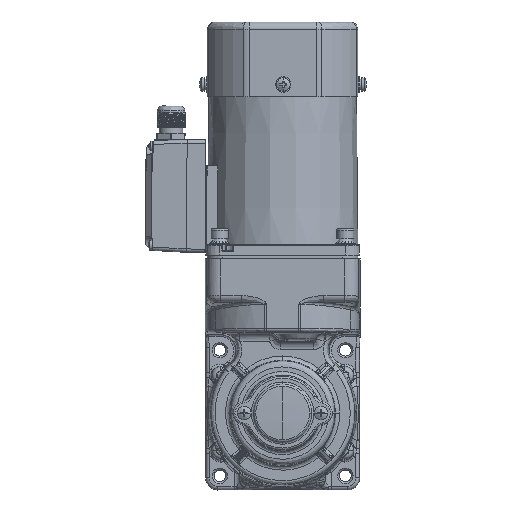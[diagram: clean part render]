
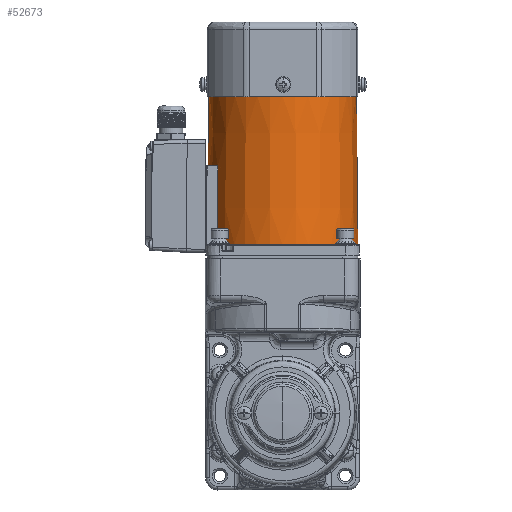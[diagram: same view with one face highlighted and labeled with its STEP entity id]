
A CAD part, left-side view. The second image highlights one B-rep face of the part: STEP entity #52673.
In plain terms, the highlighted conical face has half-angle 0.5 degrees and reference radius 44 mm.
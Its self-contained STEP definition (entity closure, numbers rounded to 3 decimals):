
#1883 = CIRCLE ( 'NONE', #111071, 43.594 ) ;
#4264 = ORIENTED_EDGE ( 'NONE', *, *, #41773, .T. ) ;
#5992 = CARTESIAN_POINT ( 'NONE',  ( 25.716, -18.727, 171.081 ) ) ;
#7411 = CARTESIAN_POINT ( 'NONE',  ( 31.793, 2.774, 217.5 ) ) ;
#7889 = CARTESIAN_POINT ( 'NONE',  ( 25.78, -18.615, 171.012 ) ) ;
#8622 = CARTESIAN_POINT ( 'NONE',  ( -12.207, 2.774, 217.5 ) ) ;
#10200 = FACE_OUTER_BOUND ( 'NONE', #118010, .T. ) ;
#17102 = LINE ( 'NONE', #7411, #109047 ) ;
#17750 = EDGE_CURVE ( 'NONE', #52035, #58328, #17102, .T. ) ;
#18147 = CARTESIAN_POINT ( 'NONE',  ( -12.207, 2.774, 130.5 ) ) ;
#19687 = CARTESIAN_POINT ( 'NONE',  ( -56.207, 2.774, 217.5 ) ) ;
#20036 = DIRECTION ( 'NONE',  ( 1., 0., 0. ) ) ;
#22420 = DIRECTION ( 'NONE',  ( 0., 0., 1. ) ) ;
#25952 = CARTESIAN_POINT ( 'NONE',  ( 25.668, -18.814, 171.22 ) ) ;
#27566 = B_SPLINE_CURVE_WITH_KNOTS ( 'NONE', 3,
 ( #44711, #64700, #25952, #86577, #114306, #65318, #95610, #76279, #94358, #47234, #5992, #125258, #104006, #7889, #35012, #115570 ),
 .UNSPECIFIED., .F., .F.,
 ( 4, 2, 2, 1, 1, 2, 2, 2, 4 ),
 ( 0., 0.25, 0.375, 0.437, 0.469, 0.484, 0.5, 0.75, 1. ),
 .UNSPECIFIED. ) ;
#32070 = DIRECTION ( 'NONE',  ( 1., 0., 0. ) ) ;
#32306 = ORIENTED_EDGE ( 'NONE', *, *, #77641, .T. ) ;
#34329 = VECTOR ( 'NONE', #38547, 1000. ) ;
#35012 = CARTESIAN_POINT ( 'NONE',  ( 25.803, -18.572, 171. ) ) ;
#36800 = CARTESIAN_POINT ( 'NONE',  ( 31.033, 2.774, 130.5 ) ) ;
#37131 = CARTESIAN_POINT ( 'NONE',  ( 25.831, -18.522, 171. ) ) ;
#38547 = DIRECTION ( 'NONE',  ( -0.009, 0., 1. ) ) ;
#38950 = DIRECTION ( 'NONE',  ( 0.009, 0., 1. ) ) ;
#39817 = LINE ( 'NONE', #48246, #34329 ) ;
#40384 = ORIENTED_EDGE ( 'NONE', *, *, #102744, .F. ) ;
#41773 = EDGE_CURVE ( 'NONE', #88445, #52035, #52920, .T. ) ;
#42800 = EDGE_CURVE ( 'NONE', #127017, #111569, #60784, .T. ) ;
#44711 = CARTESIAN_POINT ( 'NONE',  ( 25.664, -18.822, 171.297 ) ) ;
#47234 = CARTESIAN_POINT ( 'NONE',  ( 25.715, -18.73, 171.084 ) ) ;
#48246 = CARTESIAN_POINT ( 'NONE',  ( -56.207, 2.774, 217.5 ) ) ;
#49449 = CARTESIAN_POINT ( 'NONE',  ( -55.448, 2.774, 130.5 ) ) ;
#50528 = ORIENTED_EDGE ( 'NONE', *, *, #98634, .F. ) ;
#52035 = VERTEX_POINT ( 'NONE', #36800 ) ;
#52673 = ADVANCED_FACE ( 'NONE', ( #10200 ), #123950, .T. ) ;
#52920 = CIRCLE ( 'NONE', #75570, 43.241 ) ;
#55330 = ORIENTED_EDGE ( 'NONE', *, *, #17750, .T. ) ;
#58328 = VERTEX_POINT ( 'NONE', #76734 ) ;
#60784 = B_SPLINE_CURVE_WITH_KNOTS ( 'NONE', 3,
 ( #123047, #123679, #82443, #102404 ),
 .UNSPECIFIED., .F., .F.,
 ( 4, 4 ),
 ( 0., 0.046 ),
 .UNSPECIFIED. ) ;
#60886 = ORIENTED_EDGE ( 'NONE', *, *, #101857, .T. ) ;
#61001 = CARTESIAN_POINT ( 'NONE',  ( -12.207, 2.774, 171. ) ) ;
#64700 = CARTESIAN_POINT ( 'NONE',  ( 25.664, -18.822, 171.259 ) ) ;
#65318 = CARTESIAN_POINT ( 'NONE',  ( 25.697, -18.762, 171.119 ) ) ;
#67270 = ORIENTED_EDGE ( 'NONE', *, *, #42800, .T. ) ;
#68774 = DIRECTION ( 'NONE',  ( 1., 0., 0. ) ) ;
#75570 = AXIS2_PLACEMENT_3D ( 'NONE', #18147, #87797, #20036 ) ;
#76279 = CARTESIAN_POINT ( 'NONE',  ( 25.709, -18.74, 171.093 ) ) ;
#76734 = CARTESIAN_POINT ( 'NONE',  ( 31.387, 2.774, 171. ) ) ;
#77641 = EDGE_CURVE ( 'NONE', #111569, #79268, #121944, .T. ) ;
#78456 = DIRECTION ( 'NONE',  ( 0., 0., -1. ) ) ;
#79268 = VERTEX_POINT ( 'NONE', #19687 ) ;
#82443 = CARTESIAN_POINT ( 'NONE',  ( 25.82, -19.091, 202.099 ) ) ;
#86577 = CARTESIAN_POINT ( 'NONE',  ( 25.681, -18.79, 171.163 ) ) ;
#87797 = DIRECTION ( 'NONE',  ( 0., 0., 1. ) ) ;
#88445 = VERTEX_POINT ( 'NONE', #49449 ) ;
#88895 = CARTESIAN_POINT ( 'NONE',  ( -12.207, 2.774, 217.5 ) ) ;
#94358 = CARTESIAN_POINT ( 'NONE',  ( 25.712, -18.734, 171.087 ) ) ;
#95610 = CARTESIAN_POINT ( 'NONE',  ( 25.702, -18.752, 171.107 ) ) ;
#98634 = EDGE_CURVE ( 'NONE', #88445, #79268, #39817, .T. ) ;
#98898 = VERTEX_POINT ( 'NONE', #37131 ) ;
#101857 = EDGE_CURVE ( 'NONE', #58328, #98898, #1883, .T. ) ;
#102404 = CARTESIAN_POINT ( 'NONE',  ( 25.898, -19.226, 217.5 ) ) ;
#102744 = EDGE_CURVE ( 'NONE', #127017, #98898, #27566, .T. ) ;
#104006 = CARTESIAN_POINT ( 'NONE',  ( 25.742, -18.682, 171.044 ) ) ;
#105999 = DIRECTION ( 'NONE',  ( 0., 0., -1. ) ) ;
#107428 = AXIS2_PLACEMENT_3D ( 'NONE', #8622, #105999, #124741 ) ;
#109047 = VECTOR ( 'NONE', #38950, 1000. ) ;
#111071 = AXIS2_PLACEMENT_3D ( 'NONE', #61001, #78456, #68774 ) ;
#111569 = VERTEX_POINT ( 'NONE', #124088 ) ;
#114306 = CARTESIAN_POINT ( 'NONE',  ( 25.687, -18.78, 171.145 ) ) ;
#115570 = CARTESIAN_POINT ( 'NONE',  ( 25.831, -18.522, 171. ) ) ;
#115935 = CARTESIAN_POINT ( 'NONE',  ( 25.664, -18.822, 171.297 ) ) ;
#118010 = EDGE_LOOP ( 'NONE', ( #50528, #4264, #55330, #60886, #40384, #67270, #32306 ) ) ;
#119764 = AXIS2_PLACEMENT_3D ( 'NONE', #88895, #22420, #32070 ) ;
#121944 = CIRCLE ( 'NONE', #107428, 44. ) ;
#123047 = CARTESIAN_POINT ( 'NONE',  ( 25.664, -18.822, 171.297 ) ) ;
#123679 = CARTESIAN_POINT ( 'NONE',  ( 25.742, -18.957, 186.698 ) ) ;
#123950 = CONICAL_SURFACE ( 'NONE', #119764, 44., 0.009 ) ;
#124088 = CARTESIAN_POINT ( 'NONE',  ( 25.898, -19.226, 217.5 ) ) ;
#124741 = DIRECTION ( 'NONE',  ( 1., 0., 0. ) ) ;
#125258 = CARTESIAN_POINT ( 'NONE',  ( 25.727, -18.708, 171.063 ) ) ;
#127017 = VERTEX_POINT ( 'NONE', #115935 ) ;
